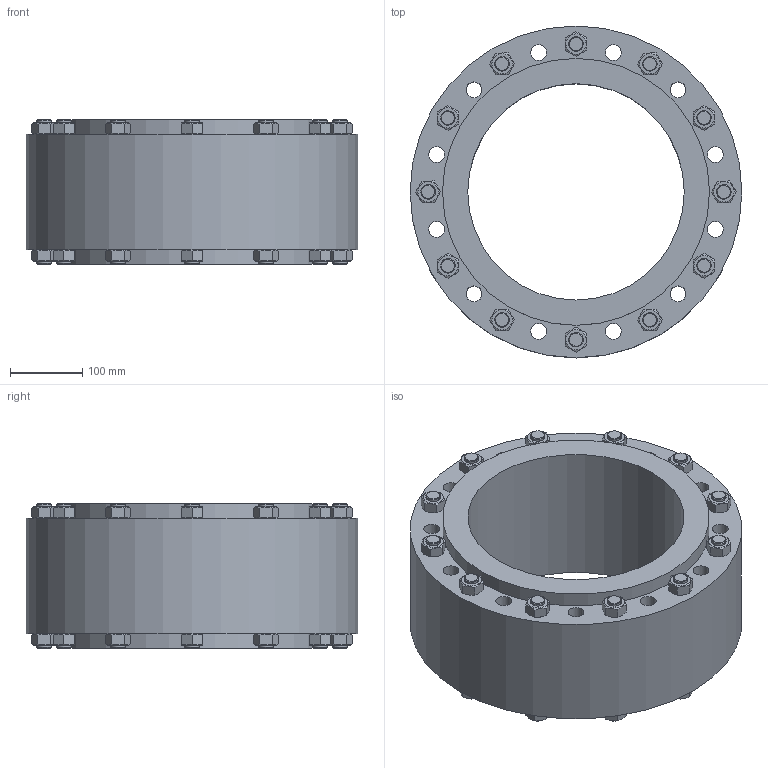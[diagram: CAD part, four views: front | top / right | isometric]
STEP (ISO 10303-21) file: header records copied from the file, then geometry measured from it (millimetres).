
FILE_DESCRIPTION(/* description */ ('ACI TYPE 620 DN300 PN10'),/* implementation_level */ '2;1');
FILE_NAME(/* name */ 'C:\Users\willms\Desktop\ACI-620-300-10.stp',/* time_stamp */ '2020-03-19T10:36:59+01:00',/* author */ ('götz'),/* organization */ ('ACI Industriearmaturen GmbH www.aci24.com info@aci24.com'),/* preprocessor_version */ 'ST-DEVELOPER v16.1',/* originating_system */ 'Autodesk Inventor 2016',/* authorisation */ 'ACI Industriearmaturen GmbH www.aci24.com info@aci24.com');
FILE_SCHEMA (('CONFIG_CONTROL_DESIGN'));
Length unit declared in the file: centimetre
Products named in the file (1): ACI-300-10
Bounding box: 460 x 460 x 200 mm (x, y, z)
Volume: 16348734.3 mm3; surface area: 829521.4 mm2
Topology: 1 solids, 25 shells, 404 faces, 913 edges, 585 vertices
Faces by surface type: plane 220, cone 120, cylinder 64
Full cylindrical faces by diameter (mm): 20 x48, 22 x12, 300 x1, 370 x2, 460 x1
Entity records: 10066 total; most frequent: CARTESIAN_POINT 2197, DIRECTION 1450, ORIENTED_EDGE 1360, EDGE_LOOP 688, EDGE_CURVE 680, AXIS2_PLACEMENT_3D 653, VERTEX_POINT 536, FACE_OUTER_BOUND 404
